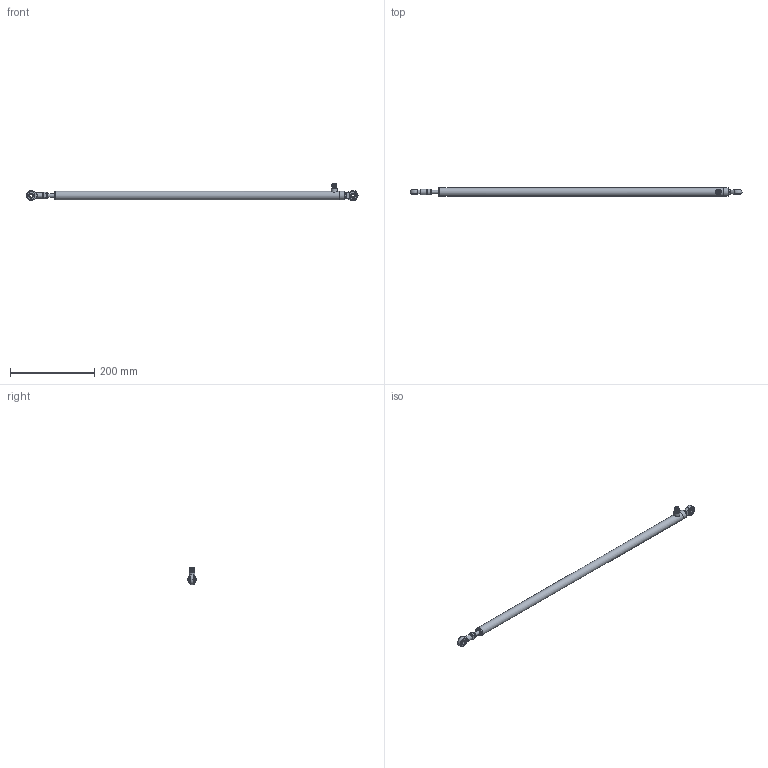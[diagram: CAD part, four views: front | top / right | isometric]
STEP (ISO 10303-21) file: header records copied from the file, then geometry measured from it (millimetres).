
FILE_DESCRIPTION( ( 'STEP AP214' ), '1' );
FILE_NAME( 'N:/Engineering/CAD_Solid/LVDT/SL/Kunden-3D-Modell/SL300-G-SR.stp', '2011-12-12T15:04:46', ( ' ' ), ( ' ' ), 'XStep 1.0', ' ', ' ' );
FILE_SCHEMA( ( 'CONFIG_CONTROL_DESIGN) ( )' ) );
Length unit declared in the file: metre
Products named in the file (9): 1; 2; 3; 4; 5; 6; 7; 8; 9
Bounding box: 786 x 20 x 40.99 mm (x, y, z)
Volume: 1908.6 mm3; surface area: 53054.2 mm2
Topology: 2 solids, 81 shells, 93 faces, 393 edges, 357 vertices
Faces by surface type: plane 41, cone 24, cylinder 21, bspline 4, sphere 2, torus 1
Full cylindrical faces by diameter (mm): 2 x2, 8 x3, 10.5 x1, 12.5 x1, 14 x1, 20 x3
Entity records: 9162 total; most frequent: CARTESIAN_POINT 5573, DIRECTION 578, ORIENTED_EDGE 344, EDGE_CURVE 332, VERTEX_POINT 332, AXIS2_PLACEMENT_3D 247, CIRCLE 147, EDGE_LOOP 146
